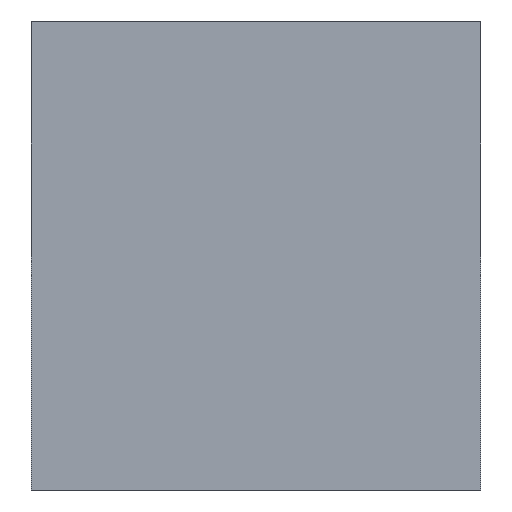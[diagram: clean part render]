
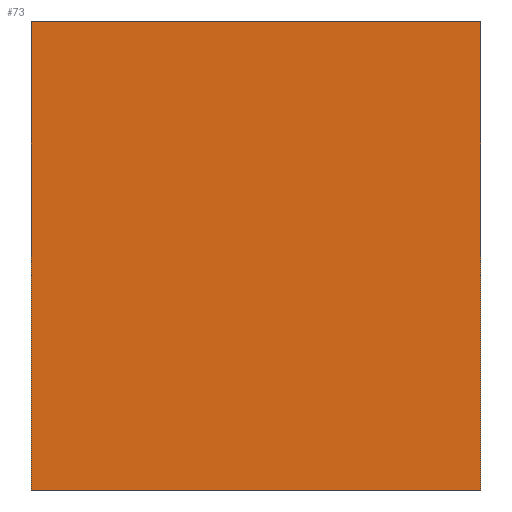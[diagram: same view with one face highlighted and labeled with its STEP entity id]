
A CAD part, left-side view. The second image highlights one B-rep face of the part: STEP entity #73.
In plain terms, the highlighted planar face has unit normal (-1, 0, 0).
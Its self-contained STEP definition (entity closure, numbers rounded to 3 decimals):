
#68=FACE_OUTER_BOUND('',#263,.T.);
#73=ADVANCED_FACE('',(#68),#116,.T.);
#116=PLANE('',#621);
#133=LINE('',#887,#145);
#135=LINE('',#899,#147);
#140=LINE('',#921,#152);
#141=LINE('',#925,#153);
#145=VECTOR('',#700,1.);
#147=VECTOR('',#712,1.);
#152=VECTOR('',#731,1.);
#153=VECTOR('',#736,1.);
#263=EDGE_LOOP('',(#362,#363,#364,#365));
#362=ORIENTED_EDGE('',*,*,#503,.T.);
#363=ORIENTED_EDGE('',*,*,#520,.T.);
#364=ORIENTED_EDGE('',*,*,#509,.F.);
#365=ORIENTED_EDGE('',*,*,#522,.T.);
#449=VERTEX_POINT('',#886);
#450=VERTEX_POINT('',#888);
#455=VERTEX_POINT('',#900);
#456=VERTEX_POINT('',#901);
#503=EDGE_CURVE('',#450,#449,#133,.T.);
#509=EDGE_CURVE('',#455,#456,#135,.T.);
#520=EDGE_CURVE('',#449,#456,#140,.T.);
#522=EDGE_CURVE('',#455,#450,#141,.T.);
#621=AXIS2_PLACEMENT_3D('',#926,#737,#738);
#700=DIRECTION('',(0.,0.,1.));
#712=DIRECTION('',(0.,0.,1.));
#731=DIRECTION('',(0.,1.,0.));
#736=DIRECTION('',(0.,-1.,0.));
#737=DIRECTION('',(-1.,0.,0.));
#738=DIRECTION('',(0.,0.,1.));
#886=CARTESIAN_POINT('',(-58.,-36.,0.));
#887=CARTESIAN_POINT('',(-58.,-36.,-75.));
#888=CARTESIAN_POINT('',(-58.,-36.,-75.));
#899=CARTESIAN_POINT('',(-58.,36.,-75.));
#900=CARTESIAN_POINT('',(-58.,36.,-75.));
#901=CARTESIAN_POINT('',(-58.,36.,0.));
#921=CARTESIAN_POINT('',(-58.,0.,0.));
#925=CARTESIAN_POINT('',(-58.,0.,-75.));
#926=CARTESIAN_POINT('',(-58.,0.,-75.));
